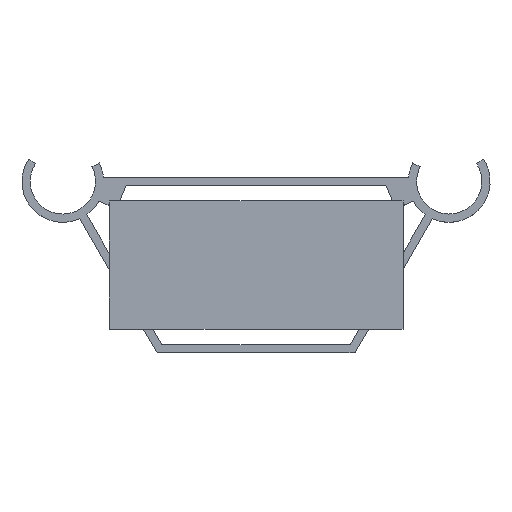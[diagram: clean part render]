
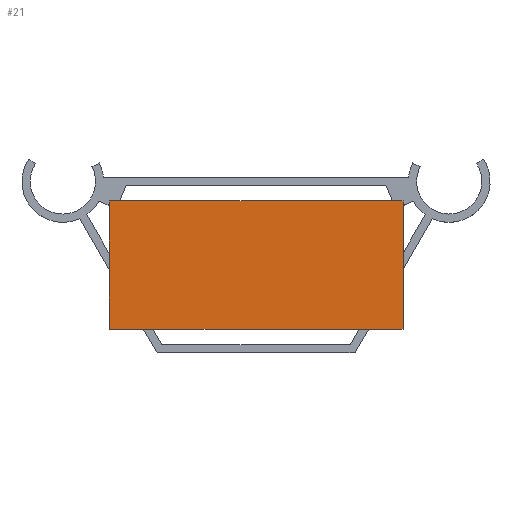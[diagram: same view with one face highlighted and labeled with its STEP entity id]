
A CAD part, top view. The second image highlights one B-rep face of the part: STEP entity #21.
In plain terms, the highlighted planar face has unit normal (0, 0, 1).
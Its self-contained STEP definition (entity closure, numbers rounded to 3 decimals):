
#21=ADVANCED_FACE('',(#68),#823,.T.);
#68=FACE_OUTER_BOUND('',#116,.T.);
#116=EDGE_LOOP('',(#194,#195,#196,#197,#198,#199,#200,#201,#202,#203,#204,
#205,#206,#207,#208,#209));
#194=ORIENTED_EDGE('',*,*,#432,.T.);
#195=ORIENTED_EDGE('',*,*,#553,.F.);
#196=ORIENTED_EDGE('',*,*,#552,.T.);
#197=ORIENTED_EDGE('',*,*,#551,.F.);
#198=ORIENTED_EDGE('',*,*,#550,.T.);
#199=ORIENTED_EDGE('',*,*,#435,.T.);
#200=ORIENTED_EDGE('',*,*,#515,.F.);
#201=ORIENTED_EDGE('',*,*,#514,.T.);
#202=ORIENTED_EDGE('',*,*,#513,.F.);
#203=ORIENTED_EDGE('',*,*,#437,.F.);
#204=ORIENTED_EDGE('',*,*,#519,.T.);
#205=ORIENTED_EDGE('',*,*,#518,.F.);
#206=ORIENTED_EDGE('',*,*,#439,.F.);
#207=ORIENTED_EDGE('',*,*,#525,.T.);
#208=ORIENTED_EDGE('',*,*,#524,.F.);
#209=ORIENTED_EDGE('',*,*,#523,.T.);
#432=EDGE_CURVE('',#705,#775,#638,.T.);
#435=EDGE_CURVE('',#704,#751,#641,.T.);
#437=EDGE_CURVE('',#754,#707,#643,.T.);
#439=EDGE_CURVE('',#760,#709,#645,.T.);
#513=EDGE_CURVE('',#707,#747,#649,.T.);
#514=EDGE_CURVE('',#748,#747,#650,.T.);
#515=EDGE_CURVE('',#748,#751,#651,.T.);
#518=EDGE_CURVE('',#709,#753,#654,.T.);
#519=EDGE_CURVE('',#754,#753,#655,.T.);
#523=EDGE_CURVE('',#756,#705,#659,.T.);
#524=EDGE_CURVE('',#756,#759,#660,.T.);
#525=EDGE_CURVE('',#760,#759,#661,.T.);
#550=EDGE_CURVE('',#776,#704,#686,.T.);
#551=EDGE_CURVE('',#776,#771,#687,.T.);
#552=EDGE_CURVE('',#772,#771,#688,.T.);
#553=EDGE_CURVE('',#772,#775,#689,.T.);
#638=B_SPLINE_CURVE_WITH_KNOTS('',1,(#1170,#1171),.UNSPECIFIED.,.F.,.F.,
(2,2),(276.023,287.705),.UNSPECIFIED.);
#641=B_SPLINE_CURVE_WITH_KNOTS('',1,(#1176,#1177),.UNSPECIFIED.,.F.,.F.,
(2,2),(376.023,377.413),.UNSPECIFIED.);
#643=B_SPLINE_CURVE_WITH_KNOTS('',1,(#1180,#1181),.UNSPECIFIED.,.F.,.F.,
(2,2),(-379.132,-379.023),.UNSPECIFIED.);
#645=B_SPLINE_CURVE_WITH_KNOTS('',1,(#1184,#1185),.UNSPECIFIED.,.F.,.F.,
(2,2),(-382.128,-382.023),.UNSPECIFIED.);
#649=B_SPLINE_CURVE_WITH_KNOTS('',1,(#1408,#1409),.UNSPECIFIED.,.F.,.F.,
(2,2),(-379.023,-378.918),.UNSPECIFIED.);
#650=B_SPLINE_CURVE_WITH_KNOTS('',1,(#1410,#1411),.UNSPECIFIED.,.F.,.F.,
(2,2),(377.8,378.918),.UNSPECIFIED.);
#651=B_SPLINE_CURVE_WITH_KNOTS('',1,(#1412,#1413),.UNSPECIFIED.,.F.,.F.,
(2,2),(-377.8,-377.413),.UNSPECIFIED.);
#654=B_SPLINE_CURVE_WITH_KNOTS('',1,(#1418,#1419),.UNSPECIFIED.,.F.,.F.,
(2,2),(-382.023,-381.914),.UNSPECIFIED.);
#655=B_SPLINE_CURVE_WITH_KNOTS('',1,(#1420,#1421),.UNSPECIFIED.,.F.,.F.,
(2,2),(379.132,381.914),.UNSPECIFIED.);
#659=B_SPLINE_CURVE_WITH_KNOTS('',1,(#1428,#1429),.UNSPECIFIED.,.F.,.F.,
(2,2),(383.633,385.023),.UNSPECIFIED.);
#660=B_SPLINE_CURVE_WITH_KNOTS('',1,(#1430,#1431),.UNSPECIFIED.,.F.,.F.,
(2,2),(-383.633,-383.246),.UNSPECIFIED.);
#661=B_SPLINE_CURVE_WITH_KNOTS('',1,(#1432,#1433),.UNSPECIFIED.,.F.,.F.,
(2,2),(382.128,383.246),.UNSPECIFIED.);
#686=B_SPLINE_CURVE_WITH_KNOTS('',1,(#1482,#1483),.UNSPECIFIED.,.F.,.F.,
(2,2),(364.341,376.023),.UNSPECIFIED.);
#687=B_SPLINE_CURVE_WITH_KNOTS('',1,(#1484,#1485),.UNSPECIFIED.,.F.,.F.,
(2,2),(-364.341,-361.088),.UNSPECIFIED.);
#688=B_SPLINE_CURVE_WITH_KNOTS('',1,(#1486,#1487),.UNSPECIFIED.,.F.,.F.,
(2,2),(290.958,361.088),.UNSPECIFIED.);
#689=B_SPLINE_CURVE_WITH_KNOTS('',1,(#1488,#1489),.UNSPECIFIED.,.F.,.F.,
(2,2),(-290.958,-287.705),.UNSPECIFIED.);
#704=VERTEX_POINT('',#1084);
#705=VERTEX_POINT('',#1085);
#707=VERTEX_POINT('',#1087);
#709=VERTEX_POINT('',#1089);
#747=VERTEX_POINT('',#1127);
#748=VERTEX_POINT('',#1128);
#751=VERTEX_POINT('',#1131);
#753=VERTEX_POINT('',#1133);
#754=VERTEX_POINT('',#1134);
#756=VERTEX_POINT('',#1136);
#759=VERTEX_POINT('',#1139);
#760=VERTEX_POINT('',#1140);
#771=VERTEX_POINT('',#1151);
#772=VERTEX_POINT('',#1152);
#775=VERTEX_POINT('',#1155);
#776=VERTEX_POINT('',#1156);
#823=PLANE('',#864);
#864=AXIS2_PLACEMENT_3D('',#1076,#888,$);
#888=DIRECTION('',(0.,0.,1.));
#1076=CARTESIAN_POINT('',(-53.25,-53.061,201.));
#1084=CARTESIAN_POINT('',(53.25,-53.061,201.));
#1085=CARTESIAN_POINT('',(-53.25,-53.061,201.));
#1087=CARTESIAN_POINT('',(53.25,-6.561,201.));
#1089=CARTESIAN_POINT('',(-53.25,-6.561,201.));
#1127=CARTESIAN_POINT('',(53.25,-8.189,201.));
#1128=CARTESIAN_POINT('',(53.25,-25.512,201.));
#1131=CARTESIAN_POINT('',(53.25,-31.512,201.));
#1133=CARTESIAN_POINT('',(-49.388,-6.561,201.));
#1134=CARTESIAN_POINT('',(49.388,-6.561,201.));
#1136=CARTESIAN_POINT('',(-53.25,-31.512,201.));
#1139=CARTESIAN_POINT('',(-53.25,-25.512,201.));
#1140=CARTESIAN_POINT('',(-53.25,-8.189,201.));
#1151=CARTESIAN_POINT('',(37.345,-53.061,201.));
#1152=CARTESIAN_POINT('',(-37.345,-53.061,201.));
#1155=CARTESIAN_POINT('',(-40.809,-53.061,201.));
#1156=CARTESIAN_POINT('',(40.809,-53.061,201.));
#1170=CARTESIAN_POINT('',(-53.25,-53.061,201.));
#1171=CARTESIAN_POINT('',(-40.809,-53.061,201.));
#1176=CARTESIAN_POINT('',(53.25,-53.061,201.));
#1177=CARTESIAN_POINT('',(53.25,-31.512,201.));
#1180=CARTESIAN_POINT('',(49.388,-6.561,201.));
#1181=CARTESIAN_POINT('',(53.25,-6.561,201.));
#1184=CARTESIAN_POINT('',(-53.25,-8.189,201.));
#1185=CARTESIAN_POINT('',(-53.25,-6.561,201.));
#1408=CARTESIAN_POINT('',(53.25,-6.561,201.));
#1409=CARTESIAN_POINT('',(53.25,-8.189,201.));
#1410=CARTESIAN_POINT('',(53.25,-25.512,201.));
#1411=CARTESIAN_POINT('',(53.25,-8.189,201.));
#1412=CARTESIAN_POINT('',(53.25,-25.512,201.));
#1413=CARTESIAN_POINT('',(53.25,-31.512,201.));
#1418=CARTESIAN_POINT('',(-53.25,-6.561,201.));
#1419=CARTESIAN_POINT('',(-49.388,-6.561,201.));
#1420=CARTESIAN_POINT('',(49.388,-6.561,201.));
#1421=CARTESIAN_POINT('',(-49.388,-6.561,201.));
#1428=CARTESIAN_POINT('',(-53.25,-31.512,201.));
#1429=CARTESIAN_POINT('',(-53.25,-53.061,201.));
#1430=CARTESIAN_POINT('',(-53.25,-31.512,201.));
#1431=CARTESIAN_POINT('',(-53.25,-25.512,201.));
#1432=CARTESIAN_POINT('',(-53.25,-8.189,201.));
#1433=CARTESIAN_POINT('',(-53.25,-25.512,201.));
#1482=CARTESIAN_POINT('',(40.809,-53.061,201.));
#1483=CARTESIAN_POINT('',(53.25,-53.061,201.));
#1484=CARTESIAN_POINT('',(40.809,-53.061,201.));
#1485=CARTESIAN_POINT('',(37.345,-53.061,201.));
#1486=CARTESIAN_POINT('',(-37.345,-53.061,201.));
#1487=CARTESIAN_POINT('',(37.345,-53.061,201.));
#1488=CARTESIAN_POINT('',(-37.345,-53.061,201.));
#1489=CARTESIAN_POINT('',(-40.809,-53.061,201.));
